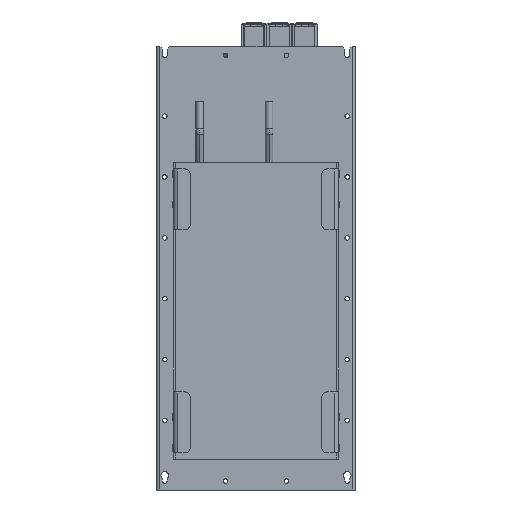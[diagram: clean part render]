
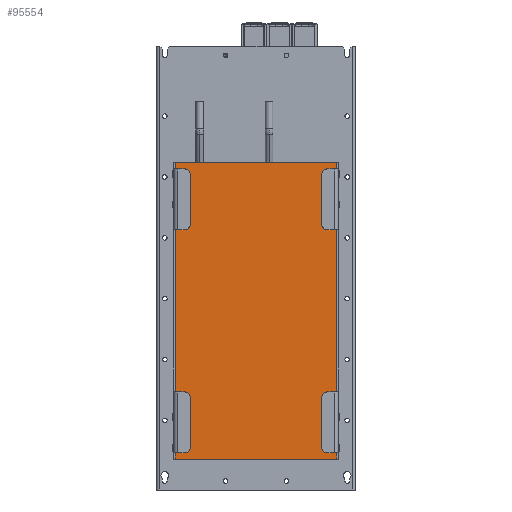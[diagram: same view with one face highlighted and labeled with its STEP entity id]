
A CAD part, front view. The second image highlights one B-rep face of the part: STEP entity #95554.
In plain terms, the highlighted planar face has unit normal (0, -1, 0).
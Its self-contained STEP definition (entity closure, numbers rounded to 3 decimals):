
#1748 = ORIENTED_EDGE ( 'NONE', *, *, #74784, .T. ) ;
#1887 = DIRECTION ( 'NONE',  ( 1., 0., 0. ) ) ;
#1972 = EDGE_CURVE ( 'NONE', #49652, #86330, #77476, .T. ) ;
#3022 = ORIENTED_EDGE ( 'NONE', *, *, #70418, .F. ) ;
#3623 = VERTEX_POINT ( 'NONE', #45209 ) ;
#4424 = DIRECTION ( 'NONE',  ( 0., 0., -1. ) ) ;
#7399 = DIRECTION ( 'NONE',  ( 1., 0., 0. ) ) ;
#8349 = ORIENTED_EDGE ( 'NONE', *, *, #63022, .T. ) ;
#8747 = FACE_OUTER_BOUND ( 'NONE', #70427, .T. ) ;
#9373 = LINE ( 'NONE', #61779, #32697 ) ;
#10037 = LINE ( 'NONE', #26156, #60864 ) ;
#10244 = DIRECTION ( 'NONE',  ( 0., 0., -1. ) ) ;
#10782 = DIRECTION ( 'NONE',  ( 0., 0., -1. ) ) ;
#11584 = DIRECTION ( 'NONE',  ( 0., 0., -1. ) ) ;
#13763 = CARTESIAN_POINT ( 'NONE',  ( -163., 0., 585. ) ) ;
#15474 = ORIENTED_EDGE ( 'NONE', *, *, #64922, .F. ) ;
#15682 = CARTESIAN_POINT ( 'NONE',  ( -159., 0., 572.5 ) ) ;
#16463 = VECTOR ( 'NONE', #58229, 1000. ) ;
#16760 = VECTOR ( 'NONE', #11584, 1000. ) ;
#17155 = EDGE_CURVE ( 'NONE', #44736, #66948, #74543, .T. ) ;
#20192 = ORIENTED_EDGE ( 'NONE', *, *, #27429, .F. ) ;
#25675 = CARTESIAN_POINT ( 'NONE',  ( -159., 0., 572.5 ) ) ;
#26156 = CARTESIAN_POINT ( 'NONE',  ( -163., 0., 0. ) ) ;
#26750 = EDGE_CURVE ( 'NONE', #77273, #35520, #93862, .T. ) ;
#27359 = EDGE_CURVE ( 'NONE', #66948, #94398, #9373, .T. ) ;
#27429 = EDGE_CURVE ( 'NONE', #94398, #49652, #86308, .T. ) ;
#27841 = LINE ( 'NONE', #28316, #16463 ) ;
#28316 = CARTESIAN_POINT ( 'NONE',  ( 159., 0., 585.001 ) ) ;
#32697 = VECTOR ( 'NONE', #70599, 1000. ) ;
#34179 = EDGE_CURVE ( 'NONE', #83006, #35468, #42122, .T. ) ;
#35468 = VERTEX_POINT ( 'NONE', #54456 ) ;
#35520 = VERTEX_POINT ( 'NONE', #82227 ) ;
#36152 = VECTOR ( 'NONE', #88271, 1000. ) ;
#38003 = CARTESIAN_POINT ( 'NONE',  ( -159., 0., 0. ) ) ;
#38634 = PLANE ( 'NONE',  #55293 ) ;
#39108 = CARTESIAN_POINT ( 'NONE',  ( 0., 0., 0. ) ) ;
#39680 = CARTESIAN_POINT ( 'NONE',  ( -159., 0., 585.001 ) ) ;
#42122 = LINE ( 'NONE', #49491, #67775 ) ;
#44736 = VERTEX_POINT ( 'NONE', #78595 ) ;
#45209 = CARTESIAN_POINT ( 'NONE',  ( -159., 0., 132.5 ) ) ;
#49277 = ORIENTED_EDGE ( 'NONE', *, *, #17155, .F. ) ;
#49491 = CARTESIAN_POINT ( 'NONE',  ( 159., 0., 585.001 ) ) ;
#49652 = VERTEX_POINT ( 'NONE', #89597 ) ;
#50854 = CARTESIAN_POINT ( 'NONE',  ( 159., 0., 572.5 ) ) ;
#51426 = DIRECTION ( 'NONE',  ( 0., 0., -1. ) ) ;
#52404 = LINE ( 'NONE', #82831, #36152 ) ;
#52700 = VECTOR ( 'NONE', #51426, 1000. ) ;
#53487 = DIRECTION ( 'NONE',  ( 0., 0., -1. ) ) ;
#54456 = CARTESIAN_POINT ( 'NONE',  ( 159., 0., 0. ) ) ;
#54620 = VECTOR ( 'NONE', #4424, 1000. ) ;
#55293 = AXIS2_PLACEMENT_3D ( 'NONE', #39108, #69003, #1887 ) ;
#56051 = DIRECTION ( 'NONE',  ( -1., 0., 0. ) ) ;
#56153 = CARTESIAN_POINT ( 'NONE',  ( 159., 0., 585. ) ) ;
#56210 = VECTOR ( 'NONE', #10244, 1000. ) ;
#58229 = DIRECTION ( 'NONE',  ( 0., 0., -1. ) ) ;
#60840 = CARTESIAN_POINT ( 'NONE',  ( -159., 0., 585.001 ) ) ;
#60864 = VECTOR ( 'NONE', #56051, 1000. ) ;
#61779 = CARTESIAN_POINT ( 'NONE',  ( 159., 0., 585.001 ) ) ;
#61800 = ORIENTED_EDGE ( 'NONE', *, *, #26750, .T. ) ;
#62741 = LINE ( 'NONE', #60840, #85161 ) ;
#63022 = EDGE_CURVE ( 'NONE', #44736, #77273, #63535, .T. ) ;
#63535 = LINE ( 'NONE', #78776, #16760 ) ;
#64323 = VECTOR ( 'NONE', #7399, 1000. ) ;
#64922 = EDGE_CURVE ( 'NONE', #35468, #76535, #10037, .T. ) ;
#66948 = VERTEX_POINT ( 'NONE', #56153 ) ;
#67775 = VECTOR ( 'NONE', #10782, 1000. ) ;
#69003 = DIRECTION ( 'NONE',  ( 0., -1., 0. ) ) ;
#70418 = EDGE_CURVE ( 'NONE', #86330, #83006, #27841, .T. ) ;
#70427 = EDGE_LOOP ( 'NONE', ( #8349, #61800, #81795, #96913, #1748, #15474, #75524, #3022, #71891, #20192, #88464, #49277 ) ) ;
#70599 = DIRECTION ( 'NONE',  ( 0., 0., -1. ) ) ;
#71891 = ORIENTED_EDGE ( 'NONE', *, *, #1972, .F. ) ;
#72045 = CARTESIAN_POINT ( 'NONE',  ( 159., 0., 585.001 ) ) ;
#73309 = VECTOR ( 'NONE', #86990, 1000. ) ;
#74543 = LINE ( 'NONE', #13763, #64323 ) ;
#74784 = EDGE_CURVE ( 'NONE', #86798, #76535, #93109, .T. ) ;
#75524 = ORIENTED_EDGE ( 'NONE', *, *, #34179, .F. ) ;
#76535 = VERTEX_POINT ( 'NONE', #38003 ) ;
#77273 = VERTEX_POINT ( 'NONE', #15682 ) ;
#77476 = LINE ( 'NONE', #87754, #52700 ) ;
#78595 = CARTESIAN_POINT ( 'NONE',  ( -159., 0., 585. ) ) ;
#78776 = CARTESIAN_POINT ( 'NONE',  ( -159., 0., 585.001 ) ) ;
#81795 = ORIENTED_EDGE ( 'NONE', *, *, #81915, .T. ) ;
#81915 = EDGE_CURVE ( 'NONE', #35520, #3623, #52404, .T. ) ;
#82227 = CARTESIAN_POINT ( 'NONE',  ( -159., 0., 452.5 ) ) ;
#82831 = CARTESIAN_POINT ( 'NONE',  ( -159., 0., 585.001 ) ) ;
#83006 = VERTEX_POINT ( 'NONE', #91733 ) ;
#85161 = VECTOR ( 'NONE', #53487, 1000. ) ;
#85195 = EDGE_CURVE ( 'NONE', #3623, #86798, #62741, .T. ) ;
#86308 = LINE ( 'NONE', #72045, #54620 ) ;
#86330 = VERTEX_POINT ( 'NONE', #87913 ) ;
#86798 = VERTEX_POINT ( 'NONE', #96596 ) ;
#86990 = DIRECTION ( 'NONE',  ( 0., 0., -1. ) ) ;
#87754 = CARTESIAN_POINT ( 'NONE',  ( 159., 0., 585.001 ) ) ;
#87913 = CARTESIAN_POINT ( 'NONE',  ( 159., 0., 132.5 ) ) ;
#88271 = DIRECTION ( 'NONE',  ( 0., 0., -1. ) ) ;
#88464 = ORIENTED_EDGE ( 'NONE', *, *, #27359, .F. ) ;
#89597 = CARTESIAN_POINT ( 'NONE',  ( 159., 0., 452.5 ) ) ;
#91733 = CARTESIAN_POINT ( 'NONE',  ( 159., 0., 12.5 ) ) ;
#93109 = LINE ( 'NONE', #39680, #56210 ) ;
#93862 = LINE ( 'NONE', #25675, #73309 ) ;
#94398 = VERTEX_POINT ( 'NONE', #50854 ) ;
#95554 = ADVANCED_FACE ( 'NONE', ( #8747 ), #38634, .T. ) ;
#96596 = CARTESIAN_POINT ( 'NONE',  ( -159., 0., 12.5 ) ) ;
#96913 = ORIENTED_EDGE ( 'NONE', *, *, #85195, .T. ) ;
